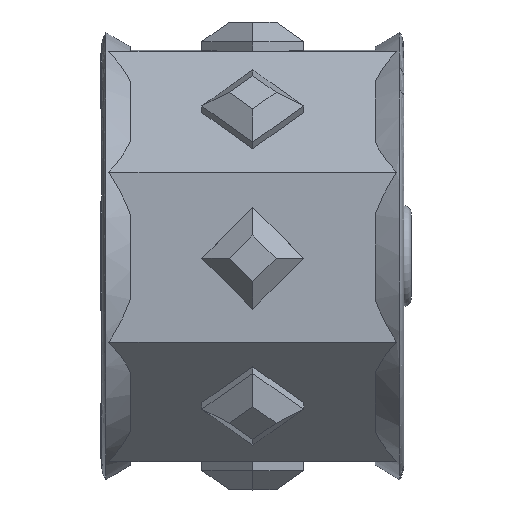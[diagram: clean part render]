
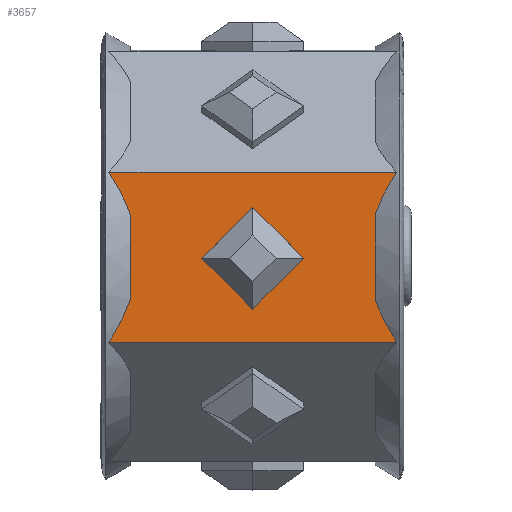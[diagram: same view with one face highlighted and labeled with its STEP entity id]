
A CAD part, top view. The second image highlights one B-rep face of the part: STEP entity #3657.
In plain terms, the highlighted planar face has unit normal (0, -0.007, 1).
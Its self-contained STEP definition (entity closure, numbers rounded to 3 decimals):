
#253=VECTOR('',#12385,1.);
#261=VECTOR('',#12414,1.);
#395=VECTOR('',#12879,1.);
#398=VECTOR('',#12883,1.);
#457=VECTOR('',#12969,1.);
#458=VECTOR('',#12971,1.);
#475=VECTOR('',#12999,1.);
#476=VECTOR('',#13001,1.);
#485=LINE('',#4015,#253);
#493=LINE('',#4107,#261);
#627=LINE('',#12184,#395);
#630=LINE('',#12190,#398);
#689=LINE('',#12312,#457);
#690=LINE('',#12314,#458);
#707=LINE('',#12347,#475);
#708=LINE('',#12349,#476);
#805=PLANE('',#3921);
#812=(
BOUNDED_CURVE()
B_SPLINE_CURVE(2,(#3934,#3935,#3936),.UNSPECIFIED.,.F.,.U.)
B_SPLINE_CURVE_WITH_KNOTS((3,3),(0.,2.336),.UNSPECIFIED.)
CURVE()
GEOMETRIC_REPRESENTATION_ITEM()
RATIONAL_B_SPLINE_CURVE((1.,1.231,1.))
REPRESENTATION_ITEM('')
);
#827=(
BOUNDED_CURVE()
B_SPLINE_CURVE(2,(#4008,#4009,#4010),.UNSPECIFIED.,.F.,.U.)
B_SPLINE_CURVE_WITH_KNOTS((3,3),(0.,2.336),.UNSPECIFIED.)
CURVE()
GEOMETRIC_REPRESENTATION_ITEM()
RATIONAL_B_SPLINE_CURVE((1.,1.231,1.))
REPRESENTATION_ITEM('')
);
#828=(
BOUNDED_CURVE()
B_SPLINE_CURVE(2,(#4026,#4027,#4028),.UNSPECIFIED.,.F.,.U.)
B_SPLINE_CURVE_WITH_KNOTS((3,3),(0.,2.336),.UNSPECIFIED.)
CURVE()
GEOMETRIC_REPRESENTATION_ITEM()
RATIONAL_B_SPLINE_CURVE((1.,1.231,1.))
REPRESENTATION_ITEM('')
);
#843=(
BOUNDED_CURVE()
B_SPLINE_CURVE(2,(#4100,#4101,#4102),.UNSPECIFIED.,.F.,.U.)
B_SPLINE_CURVE_WITH_KNOTS((3,3),(0.,2.336),.UNSPECIFIED.)
CURVE()
GEOMETRIC_REPRESENTATION_ITEM()
RATIONAL_B_SPLINE_CURVE((1.,1.231,1.))
REPRESENTATION_ITEM('')
);
#845=VERTEX_POINT('',#3932);
#846=VERTEX_POINT('',#3933);
#847=VERTEX_POINT('',#3937);
#868=VERTEX_POINT('',#4007);
#870=VERTEX_POINT('',#4024);
#871=VERTEX_POINT('',#4025);
#872=VERTEX_POINT('',#4029);
#893=VERTEX_POINT('',#4099);
#1157=VERTEX_POINT('',#12183);
#1158=VERTEX_POINT('',#12185);
#1159=VERTEX_POINT('',#12189);
#1195=VERTEX_POINT('',#12311);
#1324=EDGE_CURVE('',#847,#846,#812,.T.);
#1346=EDGE_CURVE('',#845,#868,#827,.T.);
#1350=EDGE_CURVE('',#846,#845,#485,.T.);
#1357=EDGE_CURVE('',#872,#871,#828,.T.);
#1379=EDGE_CURVE('',#870,#893,#843,.T.);
#1383=EDGE_CURVE('',#871,#870,#493,.T.);
#1788=EDGE_CURVE('',#1158,#1157,#627,.T.);
#1791=EDGE_CURVE('',#1157,#1159,#630,.T.);
#1850=EDGE_CURVE('',#1159,#1195,#689,.T.);
#1851=EDGE_CURVE('',#1195,#1158,#690,.T.);
#1868=EDGE_CURVE('',#868,#872,#707,.T.);
#1869=EDGE_CURVE('',#847,#893,#708,.T.);
#2897=ORIENTED_EDGE('',*,*,#1791,.T.);
#2898=ORIENTED_EDGE('',*,*,#1850,.T.);
#2899=ORIENTED_EDGE('',*,*,#1851,.T.);
#2900=ORIENTED_EDGE('',*,*,#1788,.T.);
#2901=ORIENTED_EDGE('',*,*,#1868,.T.);
#2902=ORIENTED_EDGE('',*,*,#1357,.T.);
#2903=ORIENTED_EDGE('',*,*,#1383,.T.);
#2904=ORIENTED_EDGE('',*,*,#1379,.T.);
#2905=ORIENTED_EDGE('',*,*,#1869,.F.);
#2906=ORIENTED_EDGE('',*,*,#1324,.T.);
#2907=ORIENTED_EDGE('',*,*,#1350,.T.);
#2908=ORIENTED_EDGE('',*,*,#1346,.T.);
#3201=EDGE_LOOP('',(#2897,#2898,#2899,#2900));
#3202=EDGE_LOOP('',(#2901,#2902,#2903,#2904,#2905,#2906,#2907,#2908));
#3435=FACE_BOUND('',#3201,.T.);
#3436=FACE_BOUND('',#3202,.T.);
#3657=ADVANCED_FACE('',(#3435,#3436),#805,.T.);
#3921=AXIS2_PLACEMENT_3D('',#12348,#13000,$);
#3932=CARTESIAN_POINT('',(-26.09,29.631,22.396));
#3933=CARTESIAN_POINT('',(-26.09,23.753,22.353));
#3934=CARTESIAN_POINT('',(-20.983,16.451,22.299));
#3935=CARTESIAN_POINT('',(-31.164,26.692,22.375));
#3936=CARTESIAN_POINT('',(-20.983,36.932,22.45));
#3937=CARTESIAN_POINT('',(-24.601,20.79,22.331));
#4007=CARTESIAN_POINT('',(-24.601,32.594,22.418));
#4008=CARTESIAN_POINT('',(-20.983,16.451,22.299));
#4009=CARTESIAN_POINT('',(-31.164,26.692,22.375));
#4010=CARTESIAN_POINT('',(-20.983,36.932,22.45));
#4015=CARTESIAN_POINT('',(-26.09,20.79,22.331));
#4024=CARTESIAN_POINT('',(-43.09,23.753,22.353));
#4025=CARTESIAN_POINT('',(-43.09,29.631,22.396));
#4026=CARTESIAN_POINT('',(-48.198,36.932,22.45));
#4027=CARTESIAN_POINT('',(-38.016,26.692,22.375));
#4028=CARTESIAN_POINT('',(-48.198,16.451,22.299));
#4029=CARTESIAN_POINT('',(-44.579,32.594,22.418));
#4099=CARTESIAN_POINT('',(-44.579,20.79,22.331));
#4100=CARTESIAN_POINT('',(-48.198,36.932,22.45));
#4101=CARTESIAN_POINT('',(-38.016,26.692,22.375));
#4102=CARTESIAN_POINT('',(-48.198,16.451,22.299));
#4107=CARTESIAN_POINT('',(-43.09,20.79,22.331));
#12183=CARTESIAN_POINT('',(-31.055,26.618,22.374));
#12184=CARTESIAN_POINT('',(-30.716,26.279,22.372));
#12185=CARTESIAN_POINT('',(-34.59,30.153,22.4));
#12189=CARTESIAN_POINT('',(-34.59,23.082,22.348));
#12190=CARTESIAN_POINT('',(-30.679,26.993,22.377));
#12311=CARTESIAN_POINT('',(-38.126,26.618,22.374));
#12312=CARTESIAN_POINT('',(-34.252,22.744,22.346));
#12314=CARTESIAN_POINT('',(-34.215,30.529,22.403));
#12347=CARTESIAN_POINT('',(-26.09,32.594,22.418));
#12348=CARTESIAN_POINT('',(-26.09,26.692,22.375));
#12349=CARTESIAN_POINT('',(-26.09,20.79,22.331));
#12385=DIRECTION('',(0.,1.,0.007));
#12414=DIRECTION('',(0.,-1.,-0.007));
#12879=DIRECTION('',(0.707,-0.707,-0.005));
#12883=DIRECTION('',(-0.707,-0.707,-0.005));
#12969=DIRECTION('',(-0.707,0.707,0.005));
#12971=DIRECTION('',(0.707,0.707,0.005));
#12999=DIRECTION('',(-1.,0.,0.));
#13000=DIRECTION('',(0.,-0.007,1.));
#13001=DIRECTION('',(-1.,0.,0.));
